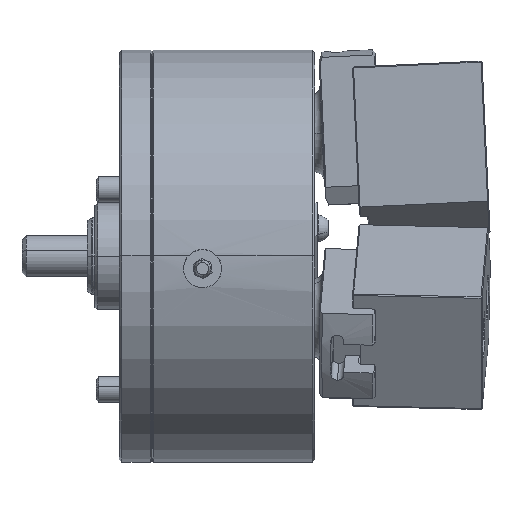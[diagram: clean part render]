
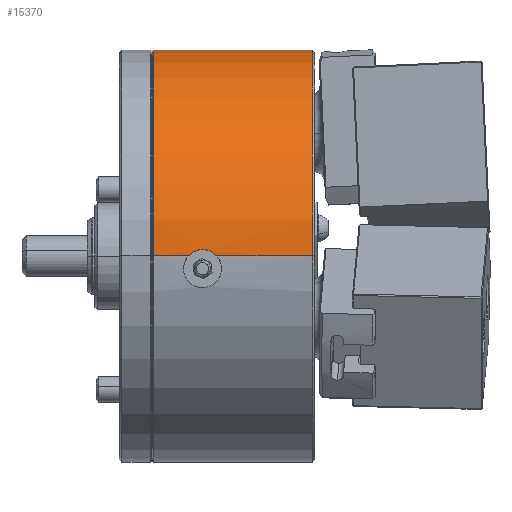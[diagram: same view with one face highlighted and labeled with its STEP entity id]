
A CAD part, top view. The second image highlights one B-rep face of the part: STEP entity #15370.
In plain terms, the highlighted cylindrical face has radius 81 mm (diameter 162 mm), a partial arc.
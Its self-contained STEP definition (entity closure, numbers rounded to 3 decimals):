
#18 = AXIS2_PLACEMENT_3D ( 'NONE', #15780, #32202, #28120 ) ;
#1635 = VERTEX_POINT ( 'NONE', #35320 ) ;
#1926 = DIRECTION ( 'NONE',  ( 0., 0., -1. ) ) ;
#2029 = CARTESIAN_POINT ( 'NONE',  ( -80.997, 0.749, -49.045 ) ) ;
#2202 = CARTESIAN_POINT ( 'NONE',  ( -80.97, 2.213, -42.128 ) ) ;
#3369 = CARTESIAN_POINT ( 'NONE',  ( 81., 0., -1. ) ) ;
#5008 = DIRECTION ( 'NONE',  ( 0., 0., -1. ) ) ;
#5125 = ORIENTED_EDGE ( 'NONE', *, *, #45661, .T. ) ;
#5830 = CIRCLE ( 'NONE', #45895, 81. ) ;
#6103 = CARTESIAN_POINT ( 'NONE',  ( -80.984, 1.63, -47.746 ) ) ;
#6274 = CARTESIAN_POINT ( 'NONE',  ( -80.976, 1.955, -41.382 ) ) ;
#7391 = ORIENTED_EDGE ( 'NONE', *, *, #15072, .T. ) ;
#8680 = CARTESIAN_POINT ( 'NONE',  ( 81., 0., -30.978 ) ) ;
#10217 = CARTESIAN_POINT ( 'NONE',  ( -80.974, 2.049, -46.775 ) ) ;
#10397 = CARTESIAN_POINT ( 'NONE',  ( -80.989, 1.373, -40.21 ) ) ;
#10592 = ORIENTED_EDGE ( 'NONE', *, *, #21902, .F. ) ;
#13978 = VERTEX_POINT ( 'NONE', #52496 ) ;
#14130 = CARTESIAN_POINT ( 'NONE',  ( -81., 0., -49.79 ) ) ;
#14300 = CARTESIAN_POINT ( 'NONE',  ( -80.966, 2.348, -45.771 ) ) ;
#15072 = EDGE_CURVE ( 'NONE', #13978, #52010, #5830, .T. ) ;
#15125 = EDGE_CURVE ( 'NONE', #13978, #36834, #27556, .T. ) ;
#15198 = CARTESIAN_POINT ( 'NONE',  ( -81., 0.395, -38.963 ) ) ;
#15293 = DIRECTION ( 'NONE',  ( 0., 0., -1. ) ) ;
#15370 = ADVANCED_FACE ( 'NONE', ( #37777 ), #25642, .T. ) ;
#15650 = ORIENTED_EDGE ( 'NONE', *, *, #45844, .F. ) ;
#15780 = CARTESIAN_POINT ( 'NONE',  ( 0., 0., -30.978 ) ) ;
#18394 = CARTESIAN_POINT ( 'NONE',  ( -80.962, 2.486, -44.73 ) ) ;
#20395 = LINE ( 'NONE', #8680, #31297 ) ;
#21902 = EDGE_CURVE ( 'NONE', #1635, #29366, #30755, .T. ) ;
#22538 = CARTESIAN_POINT ( 'NONE',  ( -80.961, 2.5, -43.675 ) ) ;
#22580 = VERTEX_POINT ( 'NONE', #35564 ) ;
#25642 = CYLINDRICAL_SURFACE ( 'NONE', #18, 81. ) ;
#26376 = CARTESIAN_POINT ( 'NONE',  ( 0., 0., -1. ) ) ;
#26641 = CARTESIAN_POINT ( 'NONE',  ( -80.968, 2.282, -42.385 ) ) ;
#27556 = LINE ( 'NONE', #47153, #45527 ) ;
#28120 = DIRECTION ( 'NONE',  ( -1., 0., 0. ) ) ;
#28438 = B_SPLINE_CURVE_WITH_KNOTS ( 'NONE', 3,
 ( #14130, #38626, #2029, #30555, #6103, #34673, #10217, #38800, #14300, #42908, #18394, #47079, #22538, #51179, #26641, #2202, #30741, #6274, #34833, #10397, #39707, #15198, #43812 ),
 .UNSPECIFIED., .F., .F.,
 ( 4, 2, 2, 2, 1, 2, 2, 2, 2, 2, 2, 4 ),
 ( 0.034, 0.036, 0.038, 0.038, 0.039, 0.04, 0.041, 0.042, 0.043, 0.044, 0.045, 0.047 ),
 .UNSPECIFIED. ) ;
#29366 = VERTEX_POINT ( 'NONE', #35307 ) ;
#30447 = DIRECTION ( 'NONE',  ( -1., 0., 0. ) ) ;
#30555 = CARTESIAN_POINT ( 'NONE',  ( -80.989, 1.367, -48.198 ) ) ;
#30741 = CARTESIAN_POINT ( 'NONE',  ( -80.974, 2.05, -41.626 ) ) ;
#30755 = CIRCLE ( 'NONE', #51938, 81. ) ;
#31297 = VECTOR ( 'NONE', #45875, 1000. ) ;
#31851 = ORIENTED_EDGE ( 'NONE', *, *, #33856, .T. ) ;
#32202 = DIRECTION ( 'NONE',  ( 0., 0., -1. ) ) ;
#33856 = EDGE_CURVE ( 'NONE', #52010, #29366, #20395, .T. ) ;
#34673 = CARTESIAN_POINT ( 'NONE',  ( -80.977, 1.953, -47.023 ) ) ;
#34744 = EDGE_LOOP ( 'NONE', ( #7391, #31851, #10592, #15650, #5125, #42415 ) ) ;
#34833 = CARTESIAN_POINT ( 'NONE',  ( -80.984, 1.635, -40.665 ) ) ;
#35307 = CARTESIAN_POINT ( 'NONE',  ( 81., 0., -63.6 ) ) ;
#35320 = CARTESIAN_POINT ( 'NONE',  ( -81., 0., -63.6 ) ) ;
#35564 = CARTESIAN_POINT ( 'NONE',  ( -81., 0., -49.79 ) ) ;
#36834 = VERTEX_POINT ( 'NONE', #39246 ) ;
#37771 = LINE ( 'NONE', #45630, #46125 ) ;
#37777 = FACE_OUTER_BOUND ( 'NONE', #34744, .T. ) ;
#38626 = CARTESIAN_POINT ( 'NONE',  ( -81., 0.39, -49.441 ) ) ;
#38800 = CARTESIAN_POINT ( 'NONE',  ( -80.97, 2.212, -46.276 ) ) ;
#39246 = CARTESIAN_POINT ( 'NONE',  ( -81., 0., -38.61 ) ) ;
#39707 = CARTESIAN_POINT ( 'NONE',  ( -80.997, 0.749, -39.354 ) ) ;
#39802 = CARTESIAN_POINT ( 'NONE',  ( 0., 0., -63.6 ) ) ;
#42415 = ORIENTED_EDGE ( 'NONE', *, *, #15125, .F. ) ;
#42908 = CARTESIAN_POINT ( 'NONE',  ( -80.964, 2.43, -45.254 ) ) ;
#43812 = CARTESIAN_POINT ( 'NONE',  ( -81., 0., -38.61 ) ) ;
#43896 = DIRECTION ( 'NONE',  ( -1., 0., 0. ) ) ;
#45527 = VECTOR ( 'NONE', #51255, 1000. ) ;
#45630 = CARTESIAN_POINT ( 'NONE',  ( -81., 0., -30.978 ) ) ;
#45661 = EDGE_CURVE ( 'NONE', #22580, #36834, #28438, .T. ) ;
#45844 = EDGE_CURVE ( 'NONE', #22580, #1635, #37771, .T. ) ;
#45875 = DIRECTION ( 'NONE',  ( 0., 0., -1. ) ) ;
#45895 = AXIS2_PLACEMENT_3D ( 'NONE', #26376, #1926, #30447 ) ;
#46125 = VECTOR ( 'NONE', #5008, 1000. ) ;
#47079 = CARTESIAN_POINT ( 'NONE',  ( -80.961, 2.5, -44.464 ) ) ;
#47153 = CARTESIAN_POINT ( 'NONE',  ( -81., 0., -30.978 ) ) ;
#51179 = CARTESIAN_POINT ( 'NONE',  ( -80.963, 2.445, -43.155 ) ) ;
#51255 = DIRECTION ( 'NONE',  ( 0., 0., -1. ) ) ;
#51938 = AXIS2_PLACEMENT_3D ( 'NONE', #39802, #15293, #43896 ) ;
#52010 = VERTEX_POINT ( 'NONE', #3369 ) ;
#52496 = CARTESIAN_POINT ( 'NONE',  ( -81., 0., -1. ) ) ;
